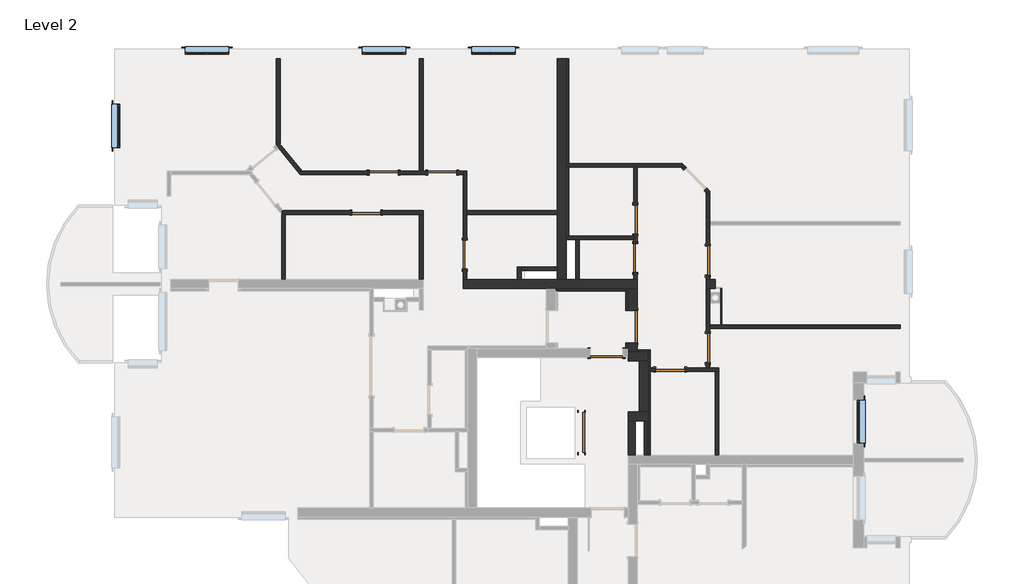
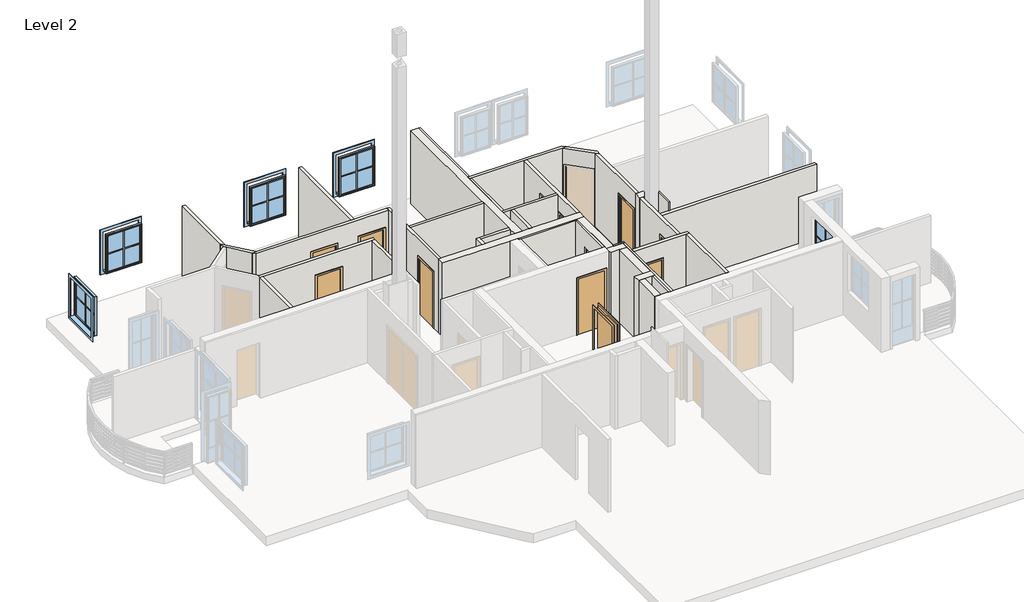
# One storey, part 3 of 4: 37 walls, 12 doors, 5 windows.
"""IFC4 building model written with IfcOpenShell, lengths in millimetres."""

from ifc_helpers import new_model, si_unit, frame, origin, place, context, project, spatial, polyline, outline, extrude, faceted_brep, transform, mapped, element, save
from components import standard_door_sd_1100x2000_1d62120a, standard_door_sd_800x2000_6a16926d, standard_door_sd_800x2000_80f4ff25, standard_door_sd_900x2000_a6683946, standard_door_sd_900x2000_4224ae2a, standard_window_with_mullions_80486b60

model = new_model("IFC4")

# Units and contexts
model_context = context("Model", 3, world=origin())
ifc_project = project(units=[si_unit("LENGTHUNIT", "METRE", prefix="MILLI")], contexts=[model_context])

# Site, building, storey
site = spatial("IfcSite", under=ifc_project)
building = spatial("IfcBuilding", under=site)
storey = spatial("IfcBuildingStorey", under=building, Name="Level 2", Elevation=5900.0)

# Doors
placement = place(None, origin())
standard_door_sd_1100x2000_shape = standard_door_sd_1100x2000_1d62120a(model_context)
element("IfcDoor", 1, ObjectType="Standard Door : SD 1100x2000", at=placement, inside=storey, context=model_context, shape_type="MappedRepresentation", body=[
    mapped(standard_door_sd_1100x2000_shape, transform((277.8037835, 250.1290541, 5900.0), x_axis=(0.0, -1.0, 0.0), y_axis=(1.0, 0.0, 0.0), z_axis=(0.0, 0.0, 1.0))),
])
standard_door_sd_800x2000_shape = standard_door_sd_800x2000_6a16926d(model_context)
element("IfcDoor", 2, ObjectType="Standard Door : SD 800x2000", at=placement, inside=storey, context=model_context, shape_type="MappedRepresentation", body=[
    mapped(standard_door_sd_800x2000_shape, transform((2717.8037831, 1986.2076978, 5900.0), x_axis=(1.0, 0.0, 0.0), y_axis=(0.0, 1.0, 0.0), z_axis=(0.0, 0.0, 1.0))),
])
element("IfcDoor", 3, ObjectType="Standard Door : SD 800x2000", at=placement, inside=storey, context=model_context, shape_type="MappedRepresentation", body=[
    mapped(standard_door_sd_800x2000_shape, transform((-5174.2767874, 7417.6290541, 5900.0), x_axis=(-1.0, 0.0, 0.0), y_axis=(0.0, -1.0, 0.0), z_axis=(0.0, 0.0, 1.0))),
])
element("IfcDoor", 4, ObjectType="Standard Door : SD 800x2000", at=placement, inside=storey, context=model_context, shape_type="MappedRepresentation", body=[
    mapped(standard_door_sd_800x2000_shape, transform((-2937.1962165, 5153.56811, 5900.0), x_axis=(0.0, -0.9999999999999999, 0.0), y_axis=(0.9999999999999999, 0.0, 0.0), z_axis=(0.0, 0.0, 1.0))),
])
standard_door_sd_800x2000_2_shape = standard_door_sd_800x2000_80f4ff25(model_context)
element("IfcDoor", 5, ObjectType="Standard Door : SD 800x2000", at=placement, inside=storey, context=model_context, shape_type="MappedRepresentation", body=[
    mapped(standard_door_sd_800x2000_2_shape, transform((-3559.5684451, 7417.6290541, 5900.0), x_axis=(1.0, 0.0, 0.0), y_axis=(0.0, 1.0, 0.0), z_axis=(0.0, 0.0, 1.0))),
])
element("IfcDoor", 6, ObjectType="Standard Door : SD 800x2000", at=placement, inside=storey, context=model_context, shape_type="MappedRepresentation", body=[
    mapped(standard_door_sd_800x2000_2_shape, transform((-5654.3517261, 6317.6290541, 5900.0), x_axis=(-1.0, 0.0, 0.0), y_axis=(0.0, -1.0, 0.0), z_axis=(0.0, 0.0, 1.0))),
])
element("IfcDoor", 7, ObjectType="Standard Door : SD 800x2000", at=placement, inside=storey, context=model_context, shape_type="MappedRepresentation", body=[
    mapped(standard_door_sd_800x2000_2_shape, transform((3762.8037835, 2576.2076972, 5900.0), x_axis=(0.0, -1.0, 0.0), y_axis=(1.0, 0.0, 0.0), z_axis=(0.0, 0.0, 1.0))),
])
element("IfcDoor", 8, ObjectType="Standard Door : SD 800x2000", at=placement, inside=storey, context=model_context, shape_type="MappedRepresentation", body=[
    mapped(standard_door_sd_800x2000_2_shape, transform((3762.8037835, 4988.8717038, 5900.0), x_axis=(0.0, -1.0, 0.0), y_axis=(1.0, 0.0, 0.0), z_axis=(0.0, 0.0, 1.0))),
])
element("IfcDoor", 9, ObjectType="Standard Door : SD 800x2000", at=placement, inside=storey, context=model_context, shape_type="MappedRepresentation", body=[
    mapped(standard_door_sd_800x2000_2_shape, transform((1762.8037835, 5063.1824611, 5900.0), x_axis=(0.0, 1.0, 0.0), y_axis=(-1.0, 0.0, 0.0), z_axis=(0.0, 0.0, 1.0))),
])
element("IfcDoor", 10, ObjectType="Standard Door : SD 800x2000", at=placement, inside=storey, context=model_context, shape_type="MappedRepresentation", body=[
    mapped(standard_door_sd_800x2000_2_shape, transform((1762.8037835, 6127.9240135, 5900.0), x_axis=(0.0, -1.0, 0.0), y_axis=(1.0, 0.0, 0.0), z_axis=(0.0, 0.0, 1.0))),
])
standard_door_sd_900x2000_shape = standard_door_sd_900x2000_a6683946(model_context)
element("IfcDoor", 11, ObjectType="Standard Door : SD 900x2000", at=placement, inside=storey, context=model_context, shape_type="MappedRepresentation", body=[
    mapped(standard_door_sd_900x2000_shape, transform((1687.8037835, 3171.1987133, 5900.0), x_axis=(0.0, 1.0, 0.0), y_axis=(-1.0, 0.0, 0.0), z_axis=(0.0, 0.0, 1.0))),
])
standard_door_sd_900x2000_2_shape = standard_door_sd_900x2000_4224ae2a(model_context)
element("IfcDoor", 12, ObjectType="Standard Door : SD 900x2000", at=placement, inside=storey, context=model_context, shape_type="MappedRepresentation", body=[
    mapped(standard_door_sd_900x2000_2_shape, transform((967.0786115, 2442.6290541, 5900.0), x_axis=(-1.0, 0.0, 0.0), y_axis=(0.0, -1.0, 0.0), z_axis=(0.0, 0.0, 1.0))),
])

# Walls
element("IfcWall", 13, ObjectType="Interior - 100mm", at=placement, inside=storey, context=model_context, shape_type="SweptSolid", body=[
    extrude(outline(polyline([(-7989.734861, 4467.6290541), (-7989.734861, 6267.6290541), (-7889.734861, 6267.6290541), (-7889.734861, 4467.6290541), (-7989.734861, 4467.6290541)])), frame((0.0, 0.0, 5900.0), z_axis=(0.0, 0.0, 1.0), x_axis=(1.0, 0.0, 0.0)), (0.0, 0.0, 1.0), 2630.0),
])
element("IfcWall", 14, ObjectType="Interior - 100mm", at=placement, inside=storey, context=model_context, shape_type="Brep", body=[
    faceted_brep([(-7989.734861, 6367.6290541, 5900.0), (-7942.2621811, 6367.6290541, 5900.0), (-6054.3517261, 6367.6290541, 5900.0), (-6054.3517261, 6267.6290541, 5900.0), (-7889.734861, 6267.6290541, 5900.0), (-7989.734861, 6267.6290541, 5900.0), (-5254.3517261, 6367.6290541, 5900.0), (-4087.1962165, 6367.6290541, 5900.0), (-4087.1962165, 6267.6290541, 5900.0), (-4187.1962165, 6267.6290541, 5900.0), (-5254.3517261, 6267.6290541, 5900.0), (-6054.3517261, 6267.6290541, 7900.0), (-5254.3517261, 6267.6290541, 7900.0), (-4087.1962165, 6267.6290541, 8530.0), (-4187.1962165, 6267.6290541, 8530.0), (-7889.734861, 6267.6290541, 8530.0), (-7989.734861, 6267.6290541, 8530.0), (-6054.3517261, 6367.6290541, 7900.0), (-7989.734861, 6367.6290541, 8530.0), (-7942.2621811, 6367.6290541, 8530.0), (-4087.1962165, 6367.6290541, 8530.0), (-5254.3517261, 6367.6290541, 7900.0)], [[[0, 1, 2, 3, 4, 5]], [[6, 7, 8, 9, 10]], [[5, 4, 3, 11, 12, 10, 9, 8, 13, 14, 15, 16]], [[17, 2, 1, 0, 18, 19, 20, 7, 6, 21]], [[13, 8, 7, 20]], [[5, 16, 18, 0]], [[16, 15, 14, 13, 20, 19, 18]], [[11, 3, 2, 17]], [[12, 11, 17, 21]], [[10, 12, 21, 6]]]),
])
element("IfcWall", 15, ObjectType="Interior - 100mm", at=placement, inside=storey, context=model_context, shape_type="SweptSolid", body=[
    extrude(outline(polyline([(-4187.1962165, 4467.6290541), (-4187.1962165, 6267.6290541), (-4087.1962165, 6267.6290541), (-4087.1962165, 4467.6290541), (-4187.1962165, 4467.6290541)])), frame((0.0, 0.0, 5900.0), z_axis=(0.0, 0.0, 1.0), x_axis=(1.0, 0.0, 0.0)), (0.0, 0.0, 1.0), 2630.0),
])
element("IfcWall", 16, ObjectType="Interior - 100mm", at=placement, inside=storey, context=model_context, shape_type="Brep", body=[
    faceted_brep([(-2987.1962165, 4467.6290541, 5900.0), (-2987.1962165, 4753.56811, 5900.0), (-2887.1962165, 4753.56811, 5900.0), (-2887.1962165, 4467.6290541, 5900.0), (-2987.1962165, 5553.56811, 5900.0), (-2987.1962165, 7367.6290541, 5900.0), (-2987.1962165, 7467.6290541, 5900.0), (-2887.1962165, 7467.6290541, 5900.0), (-2887.1962165, 6367.6290541, 5900.0), (-2887.1962165, 6267.6290541, 5900.0), (-2887.1962165, 5553.56811, 5900.0), (-2887.1962165, 4753.56811, 7900.0), (-2887.1962165, 5553.56811, 7900.0), (-2887.1962165, 7467.6290541, 8530.0), (-2887.1962165, 6367.6290541, 8530.0), (-2887.1962165, 6267.6290541, 8530.0), (-2887.1962165, 4467.6290541, 8530.0), (-2987.1962165, 4753.56811, 7900.0), (-2987.1962165, 4467.6290541, 8530.0), (-2987.1962165, 7367.6290541, 8530.0), (-2987.1962165, 7467.6290541, 8530.0), (-2987.1962165, 5553.56811, 7900.0)], [[[0, 1, 2, 3]], [[4, 5, 6, 7, 8, 9, 10]], [[3, 2, 11, 12, 10, 9, 8, 7, 13, 14, 15, 16]], [[17, 1, 0, 18, 19, 20, 6, 5, 4, 21]], [[3, 16, 18, 0]], [[13, 7, 6, 20]], [[16, 15, 14, 13, 20, 19, 18]], [[11, 2, 1, 17]], [[12, 11, 17, 21]], [[10, 12, 21, 4]]]),
])
element("IfcWall", 17, ObjectType="Interior - 100mm", at=placement, inside=storey, context=model_context, shape_type="Brep", body=[
    faceted_brep([(-2987.1962165, 7367.6290541, 5900.0), (-3159.5684451, 7367.6290541, 5900.0), (-3159.5684451, 7467.6290541, 5900.0), (-2987.1962165, 7467.6290541, 5900.0), (-7549.1227781, 7467.6290541, 5900.0), (-7420.0627022, 7467.6290541, 5900.0), (-5574.2767874, 7467.6290541, 5900.0), (-5574.2767874, 7367.6290541, 5900.0), (-7467.5353821, 7367.6290541, 5900.0), (-4774.2767874, 7467.6290541, 5900.0), (-4187.1962165, 7467.6290541, 5900.0), (-4087.1962165, 7467.6290541, 5900.0), (-3959.5684451, 7467.6290541, 5900.0), (-3959.5684451, 7367.6290541, 5900.0), (-4774.2767874, 7367.6290541, 5900.0), (-5574.2767874, 7467.6290541, 7900.0), (-7549.1227781, 7467.6290541, 8530.0), (-7420.0627022, 7467.6290541, 8530.0), (-4187.1962165, 7467.6290541, 8530.0), (-4087.1962165, 7467.6290541, 8530.0), (-2987.1962165, 7467.6290541, 8530.0), (-3159.5684451, 7467.6290541, 7900.0), (-3959.5684451, 7467.6290541, 7900.0), (-4774.2767874, 7467.6290541, 7900.0), (-5574.2767874, 7367.6290541, 7900.0), (-4774.2767874, 7367.6290541, 7900.0), (-3959.5684451, 7367.6290541, 7900.0), (-3159.5684451, 7367.6290541, 7900.0), (-2987.1962165, 7367.6290541, 8530.0), (-7467.5353821, 7367.6290541, 8530.0)], [[[0, 1, 2, 3]], [[4, 5, 6, 7, 8]], [[9, 10, 11, 12, 13, 14]], [[15, 6, 5, 4, 16, 17, 18, 19, 20, 3, 2, 21, 22, 12, 11, 10, 9, 23]], [[8, 7, 24, 25, 14, 13, 26, 27, 1, 0, 28, 29]], [[3, 20, 28, 0]], [[16, 4, 8, 29]], [[20, 19, 18, 17, 16, 29, 28]], [[21, 2, 1, 27]], [[22, 21, 27, 26]], [[12, 22, 26, 13]], [[24, 7, 6, 15]], [[25, 24, 15, 23]], [[14, 25, 23, 9]]]),
])
element("IfcWall", 18, ObjectType="Interior - 100mm", at=placement, inside=storey, context=model_context, shape_type="SweptSolid", body=[
    extrude(outline(polyline([(-387.1962165, 6267.6290541), (-2887.1962165, 6267.6290541), (-2887.1962165, 6367.6290541), (-387.1962165, 6367.6290541), (-387.1962165, 6267.6290541)])), frame((0.0, 0.0, 5900.0), z_axis=(0.0, 0.0, 1.0), x_axis=(1.0, 0.0, 0.0)), (0.0, 0.0, 1.0), 2630.0),
])
element("IfcWall", 19, ObjectType="Interior - 100mm", at=placement, inside=storey, context=model_context, shape_type="Brep", body=[
    faceted_brep([(-1387.1962165, 4467.6290541, 5900.0), (-1387.1962165, 4717.6290541, 5900.0), (-1387.1962165, 4817.6290541, 5900.0), (-1387.1962165, 4817.6290541, 8530.0), (-1387.1962165, 4717.6290541, 8530.0), (-1387.1962165, 4467.6290541, 8530.0), (-1487.1962165, 4467.6290541, 5900.0), (-1487.1962165, 4467.6290541, 8530.0), (-1487.1962165, 4817.6290541, 8530.0), (-1487.1962165, 4817.6290541, 5900.0)], [[[0, 1, 2, 3, 4, 5]], [[6, 7, 8, 9]], [[2, 1, 0, 6, 9]], [[3, 2, 9, 8]], [[0, 5, 7, 6]], [[5, 4, 3, 8, 7]]]),
])
element("IfcWall", 20, ObjectType="Interior - 100mm", at=placement, inside=storey, context=model_context, shape_type="Brep", body=[
    faceted_brep([(-1387.1962165, 4717.6290541, 5900.0), (-387.1962165, 4717.6290541, 5900.0), (-387.1962165, 4717.6290541, 8530.0), (-1287.1962165, 4717.6290541, 8530.0), (-1387.1962165, 4717.6290541, 8530.0), (-1387.1962165, 4817.6290541, 5900.0), (-1387.1962165, 4817.6290541, 8530.0), (-387.1962165, 4817.6290541, 8530.0), (-387.1962165, 4817.6290541, 5900.0)], [[[0, 1, 2, 3, 4]], [[5, 6, 7, 8]], [[1, 0, 5, 8]], [[2, 1, 8, 7]], [[0, 4, 6, 5]], [[4, 3, 2, 7, 6]]]),
])
element("IfcWall", 21, ObjectType="Interior - 100mm", at=placement, inside=storey, context=model_context, shape_type="Brep", body=[
    faceted_brep([(4062.8037835, 1936.2076978, 5900.0), (3962.8037835, 1936.2076978, 5900.0), (3117.8037831, 1936.2076978, 5900.0), (3117.8037831, 2036.2076978, 5900.0), (3712.8037835, 2036.2076978, 5900.0), (3812.8037835, 2036.2076978, 5900.0), (4062.8037835, 2036.2076978, 5900.0), (2317.8037831, 1936.2076978, 5900.0), (2177.8037835, 1936.2076978, 5900.0), (2177.8037835, 2036.2076978, 5900.0), (2317.8037831, 2036.2076978, 5900.0), (3117.8037831, 1936.2076978, 7900.0), (4062.8037835, 1936.2076978, 8530.0), (3962.8037835, 1936.2076978, 8530.0), (2177.8037835, 1936.2076978, 8530.0), (2317.8037831, 1936.2076978, 7900.0), (3117.8037831, 2036.2076978, 7900.0), (2317.8037831, 2036.2076978, 7900.0), (2177.8037835, 2036.2076978, 8530.0), (3712.8037835, 2036.2076978, 8530.0), (3812.8037835, 2036.2076978, 8530.0), (4062.8037835, 2036.2076978, 8530.0)], [[[0, 1, 2, 3, 4, 5, 6]], [[7, 8, 9, 10]], [[11, 2, 1, 0, 12, 13, 14, 8, 7, 15]], [[6, 5, 4, 3, 16, 17, 10, 9, 18, 19, 20, 21]], [[8, 14, 18, 9]], [[12, 0, 6, 21]], [[14, 13, 12, 21, 20, 19, 18]], [[16, 3, 2, 11]], [[17, 16, 11, 15]], [[10, 17, 15, 7]]]),
])
element("IfcWall", 22, ObjectType="Interior - 100mm", at=placement, inside=storey, context=model_context, shape_type="SweptSolid", body=[
    extrude(outline(polyline([(3962.8037835, -382.3709459), (3962.8037835, 1936.2076978), (4062.8037835, 1936.2076978), (4062.8037835, -382.3709459), (3962.8037835, -382.3709459)])), frame((0.0, 0.0, 5900.0), z_axis=(0.0, 0.0, 1.0), x_axis=(1.0, 0.0, 0.0)), (0.0, 0.0, 1.0), 2630.0),
])
element("IfcWall", 23, ObjectType="Interior - 100mm", at=placement, inside=storey, context=model_context, shape_type="SweptSolid", body=[
    extrude(outline(polyline([(2012.8037835, -382.3709459), (2012.8037835, 567.6290541), (2112.8037835, 567.6290541), (2112.8037835, -382.3709459), (2012.8037835, -382.3709459)])), frame((0.0, 0.0, 5900.0), z_axis=(0.0, 0.0, 1.0), x_axis=(1.0, 0.0, 0.0)), (0.0, 0.0, 1.0), 2630.0),
])
element("IfcWall", 24, ObjectType="Interior - 100mm", at=placement, inside=storey, context=model_context, shape_type="Brep", body=[
    faceted_brep([(3154.2251397, 7567.6290541, 5900.0), (3012.8037835, 7567.6290541, 5900.0), (1812.8037835, 7567.6290541, 5900.0), (1712.8037835, 7567.6290541, 5900.0), (-72.1962165, 7567.6290541, 5900.0), (-137.1962165, 7567.6290541, 5900.0), (-137.1962165, 7667.6290541, 5900.0), (3054.2251397, 7667.6290541, 5900.0), (3154.2251397, 7567.6290541, 8530.0), (3012.8037835, 7567.6290541, 8530.0), (1812.8037835, 7567.6290541, 8530.0), (1712.8037835, 7567.6290541, 8530.0), (-72.1962165, 7567.6290541, 8530.0), (-137.1962165, 7567.6290541, 8530.0), (-137.1962165, 7667.6290541, 8530.0), (3054.2251397, 7667.6290541, 8530.0)], [[[0, 1, 2, 3, 4, 5, 6, 7]], [[5, 4, 3, 2, 1, 0, 8, 9, 10, 11, 12, 13]], [[6, 14, 15, 7]], [[5, 13, 14, 6]], [[8, 0, 7, 15]], [[13, 12, 11, 10, 9, 8, 15, 14]]]),
])
element("IfcWall", 25, ObjectType="Interior - 100mm", at=placement, inside=storey, context=model_context, shape_type="Brep", body=[
    faceted_brep([(3012.8037835, 7567.6290541, 5900.0), (3154.2251397, 7567.6290541, 5900.0), (3163.3585219, 7558.4956719, 5900.0), (3092.6478438, 7487.7849937, 5900.0), (3812.8037835, 6909.0504103, 5900.0), (3812.8037835, 6767.6290541, 5900.0), (3712.8037835, 6867.6290541, 5900.0), (3658.3332688, 6922.0995688, 5900.0), (3729.0439469, 6992.8102469, 5900.0), (3012.8037835, 7567.6290541, 8530.0), (3092.6478438, 7487.7849937, 7900.0), (3658.3332688, 6922.0995688, 7900.0), (3812.8037835, 6767.6290541, 8530.0), (3712.8037835, 6867.6290541, 8530.0), (3154.2251397, 7567.6290541, 8530.0), (3812.8037835, 6909.0504103, 8530.0), (3729.0439469, 6992.8102469, 7900.0), (3163.3585219, 7558.4956719, 7900.0)], [[[0, 1, 2, 3]], [[4, 5, 6, 7, 8]], [[9, 0, 3, 10, 11, 7, 6, 5, 12, 13]], [[1, 14, 15, 4, 8, 16, 17, 2]], [[0, 9, 14, 1]], [[12, 5, 4, 15]], [[9, 13, 12, 15, 14]], [[11, 16, 8, 7]], [[16, 11, 10, 17]], [[17, 10, 3, 2]]]),
])
element("IfcWall", 26, ObjectType="Interior - 100mm", at=placement, inside=storey, context=model_context, shape_type="Brep", body=[
    faceted_brep([(3712.8037835, 4467.6290541, 5900.0), (3712.8037835, 4588.8717038, 5900.0), (3812.8037835, 4588.8717038, 5900.0), (3812.8037835, 4467.6290541, 5900.0), (3712.8037835, 5388.8717038, 5900.0), (3712.8037835, 6867.6290541, 5900.0), (3812.8037835, 6767.6290541, 5900.0), (3812.8037835, 6067.6290541, 5900.0), (3812.8037835, 5967.6290541, 5900.0), (3812.8037835, 5388.8717038, 5900.0), (3712.8037835, 4588.8717038, 7900.0), (3712.8037835, 4467.6290541, 8530.0), (3712.8037835, 6867.6290541, 8530.0), (3712.8037835, 5388.8717038, 7900.0), (3812.8037835, 4588.8717038, 7900.0), (3812.8037835, 5388.8717038, 7900.0), (3812.8037835, 6767.6290541, 8530.0), (3812.8037835, 6067.6290541, 8530.0), (3812.8037835, 5967.6290541, 8530.0), (3812.8037835, 4467.6290541, 8530.0)], [[[0, 1, 2, 3]], [[4, 5, 6, 7, 8, 9]], [[10, 1, 0, 11, 12, 5, 4, 13]], [[3, 2, 14, 15, 9, 8, 7, 6, 16, 17, 18, 19]], [[5, 12, 16, 6]], [[11, 0, 3, 19]], [[12, 11, 19, 18, 17, 16]], [[14, 2, 1, 10]], [[15, 14, 10, 13]], [[9, 15, 13, 4]]]),
])
element("IfcWall", 27, ObjectType="Interior - 100mm", at=placement, inside=storey, context=model_context, shape_type="Brep", body=[
    faceted_brep([(1712.8037835, 5463.1824611, 5900.0), (1712.8037835, 5567.6290541, 5900.0), (1712.8037835, 5667.6290541, 5900.0), (1712.8037835, 5727.9240135, 5900.0), (1812.8037835, 5727.9240135, 5900.0), (1812.8037835, 5463.1824611, 5900.0), (1812.8037835, 4663.1824611, 5900.0), (1812.8037835, 4467.6290541, 5900.0), (1712.8037835, 4467.6290541, 5900.0), (1712.8037835, 4663.1824611, 5900.0), (1712.8037835, 6527.9240135, 5900.0), (1712.8037835, 7567.6290541, 5900.0), (1812.8037835, 7567.6290541, 5900.0), (1812.8037835, 6527.9240135, 5900.0), (1712.8037835, 5727.9240135, 7900.0), (1712.8037835, 5463.1824611, 7900.0), (1712.8037835, 4663.1824611, 7900.0), (1712.8037835, 4467.6290541, 8530.0), (1712.8037835, 5567.6290541, 8530.0), (1712.8037835, 5667.6290541, 8530.0), (1712.8037835, 7567.6290541, 8530.0), (1712.8037835, 6527.9240135, 7900.0), (1812.8037835, 5727.9240135, 7900.0), (1812.8037835, 6527.9240135, 7900.0), (1812.8037835, 7567.6290541, 8530.0), (1812.8037835, 4467.6290541, 8530.0), (1812.8037835, 4663.1824611, 7900.0), (1812.8037835, 5463.1824611, 7900.0)], [[[0, 1, 2, 3, 4, 5]], [[6, 7, 8, 9]], [[10, 11, 12, 13]], [[14, 3, 2, 1, 0, 15, 16, 9, 8, 17, 18, 19, 20, 11, 10, 21]], [[5, 4, 22, 23, 13, 12, 24, 25, 7, 6, 26, 27]], [[11, 20, 24, 12]], [[17, 8, 7, 25]], [[20, 19, 18, 17, 25, 24]], [[15, 0, 5, 27]], [[16, 15, 27, 26]], [[9, 16, 26, 6]], [[22, 4, 3, 14]], [[23, 22, 14, 21]], [[13, 23, 21, 10]]]),
])
element("IfcWall", 28, ObjectType="Interior - 100mm", at=placement, inside=storey, context=model_context, shape_type="Brep", body=[
    faceted_brep([(1712.8037835, 5667.6290541, 5900.0), (-137.1962165, 5667.6290541, 5900.0), (-137.1962165, 5667.6290541, 8530.0), (1712.8037835, 5667.6290541, 8530.0), (1712.8037835, 5567.6290541, 5900.0), (1712.8037835, 5567.6290541, 8530.0), (212.8037835, 5567.6290541, 8530.0), (112.8037835, 5567.6290541, 8530.0), (-137.1962165, 5567.6290541, 8530.0), (-137.1962165, 5567.6290541, 5900.0), (112.8037835, 5567.6290541, 5900.0), (212.8037835, 5567.6290541, 5900.0)], [[[0, 1, 2, 3]], [[4, 5, 6, 7, 8, 9, 10, 11]], [[1, 0, 4, 11, 10, 9]], [[2, 1, 9, 8]], [[0, 3, 5, 4]], [[3, 2, 8, 7, 6, 5]]]),
])
element("IfcWall", 29, ObjectType="Interior - 100mm", at=placement, inside=storey, context=model_context, shape_type="SweptSolid", body=[
    extrude(outline(polyline([(112.8037835, 4467.6290541), (112.8037835, 5567.6290541), (212.8037835, 5567.6290541), (212.8037835, 4467.6290541), (112.8037835, 4467.6290541)])), frame((0.0, 0.0, 5900.0), z_axis=(0.0, 0.0, 1.0), x_axis=(1.0, 0.0, 0.0)), (0.0, 0.0, 1.0), 2630.0),
])
element("IfcWall", 30, ObjectType="Interior - 100mm", at=placement, inside=storey, context=model_context, shape_type="Brep", body=[
    faceted_brep([(9062.8037835, 3216.2076978, 5900.0), (4142.8037835, 3216.2076978, 5900.0), (4112.8037835, 3216.2076978, 5900.0), (3812.8037835, 3216.2076978, 5900.0), (3812.8037835, 3216.2076978, 8530.0), (9062.8037835, 3216.2076978, 8530.0), (9062.8037835, 3116.2076978, 5900.0), (9062.8037835, 3116.2076978, 8530.0), (3812.8037835, 3116.2076978, 8530.0), (3812.8037835, 3116.2076978, 5900.0)], [[[0, 1, 2, 3, 4, 5]], [[6, 7, 8, 9]], [[3, 2, 1, 0, 6, 9]], [[4, 3, 9, 8]], [[0, 5, 7, 6]], [[5, 4, 8, 7]]]),
])
element("IfcWall", 31, ObjectType="Interior - 100mm", at=placement, inside=storey, context=model_context, shape_type="Brep", body=[
    faceted_brep([(3712.8037835, 2036.2076978, 5900.0), (3712.8037835, 2176.2076972, 5900.0), (3812.8037835, 2176.2076972, 5900.0), (3812.8037835, 2036.2076978, 5900.0), (3712.8037835, 2976.2076972, 5900.0), (3712.8037835, 4217.6290541, 5900.0), (3812.8037835, 4217.6290541, 5900.0), (3812.8037835, 3216.2076978, 5900.0), (3812.8037835, 3116.2076978, 5900.0), (3812.8037835, 2976.2076972, 5900.0), (3712.8037835, 2176.2076972, 7900.0), (3712.8037835, 2036.2076978, 8530.0), (3712.8037835, 4217.6290541, 8530.0), (3712.8037835, 2976.2076972, 7900.0), (3812.8037835, 2176.2076972, 7900.0), (3812.8037835, 2976.2076972, 7900.0), (3812.8037835, 4217.6290541, 8530.0), (3812.8037835, 3216.2076978, 8530.0), (3812.8037835, 3116.2076978, 8530.0), (3812.8037835, 2036.2076978, 8530.0)], [[[0, 1, 2, 3]], [[4, 5, 6, 7, 8, 9]], [[10, 1, 0, 11, 12, 5, 4, 13]], [[3, 2, 14, 15, 9, 8, 7, 6, 16, 17, 18, 19]], [[11, 0, 3, 19]], [[5, 12, 16, 6]], [[12, 11, 19, 18, 17, 16]], [[14, 2, 1, 10]], [[15, 14, 10, 13]], [[9, 15, 13, 4]]]),
])
element("IfcWall", 32, ObjectType="Interior - 100mm", at=placement, inside=storey, context=model_context, shape_type="Brep", body=[
    faceted_brep([(-7420.0627022, 7467.6290541, 5900.0), (-8028.1071844, 8212.8967207, 5900.0), (-8128.1071844, 8335.4646723, 5900.0), (-8128.1071844, 8335.4646723, 8530.0), (-8028.1071844, 8212.8967207, 8530.0), (-7420.0627022, 7467.6290541, 8530.0), (-7549.1227781, 7467.6290541, 5900.0), (-7549.1227781, 7467.6290541, 8530.0), (-8064.8905812, 8099.7950854, 8530.0), (-8128.1071844, 8177.278381, 8530.0), (-8128.1071844, 8177.278381, 5900.0), (-8064.8905812, 8099.7950854, 5900.0)], [[[0, 1, 2, 3, 4, 5]], [[6, 7, 8, 9, 10, 11]], [[2, 1, 0, 6, 11, 10]], [[3, 2, 10, 9]], [[0, 5, 7, 6]], [[5, 4, 3, 9, 8, 7]]]),
])
element("IfcWall", 33, ObjectType="Interior - 100mm", at=placement, inside=storey, context=model_context, shape_type="SweptSolid", body=[
    extrude(outline(polyline([(-8028.1071844, 10567.6290541), (-8028.1071844, 8212.8967207), (-8128.1071844, 8335.4646723), (-8128.1071844, 10567.6290541), (-8028.1071844, 10567.6290541)])), frame((0.0, 0.0, 5900.0), z_axis=(0.0, 0.0, 1.0), x_axis=(1.0, 0.0, 0.0)), (0.0, 0.0, 1.0), 2630.0),
])
element("IfcWall", 34, ObjectType="Interior - 100mm", at=placement, inside=storey, context=model_context, shape_type="SweptSolid", body=[
    extrude(outline(polyline([(-4087.1962165, 10567.6290541), (-4087.1962165, 7467.6290541), (-4187.1962165, 7467.6290541), (-4187.1962165, 10567.6290541), (-4087.1962165, 10567.6290541)])), frame((0.0, 0.0, 5900.0), z_axis=(0.0, 0.0, 1.0), x_axis=(1.0, 0.0, 0.0)), (0.0, 0.0, 1.0), 2630.0),
])
element("IfcWall", 35, ObjectType="Interior - 200mm", at=placement, inside=storey, context=model_context, shape_type="SweptSolid", body=[
    extrude(outline(polyline([(1562.8087381, -382.3709459), (1562.8087381, 567.6290541), (1762.8087381, 567.6290541), (1762.8087381, -382.3709459), (1562.8087381, -382.3709459)])), frame((0.0, 0.0, 5900.0), z_axis=(0.0, 0.0, 1.0), x_axis=(1.0, 0.0, 0.0)), (0.0, 0.0, 1.0), 2630.0),
])
element("IfcWall", 36, ObjectType="Interior - 250mm", at=placement, inside=storey, context=model_context, shape_type="Brep", body=[
    faceted_brep([(3712.8037835, 4217.6290541, 5900.0), (3812.8037835, 4217.6290541, 5900.0), (3962.8037835, 4217.6290541, 5900.0), (3962.8037835, 4217.6290541, 8530.0), (3812.8037835, 4217.6290541, 8530.0), (3712.8037835, 4217.6290541, 8530.0), (3712.8037835, 4467.6290541, 5900.0), (3712.8037835, 4467.6290541, 8530.0), (3812.8037835, 4467.6290541, 8530.0), (3962.8037835, 4467.6290541, 8530.0), (3962.8037835, 4467.6290541, 5900.0), (3812.8037835, 4467.6290541, 5900.0), (3962.8037835, 4247.6290541, 5900.0)], [[[0, 1, 2, 3, 4, 5]], [[6, 7, 8, 9, 10, 11]], [[2, 1, 0, 6, 11, 10, 12]], [[3, 2, 12, 10, 9]], [[0, 5, 7, 6]], [[5, 4, 3, 9, 8, 7]]]),
])
element("IfcWall", 37, ObjectType="Interior - 250mm", at=placement, inside=storey, context=model_context, shape_type="SweptSolid", body=[
    extrude(outline(polyline([(2112.8037835, 2217.6290541), (2112.8037835, 817.6290541), (1862.8037835, 817.6290541), (1862.8037835, 2217.6290541), (2112.8037835, 2217.6290541)])), frame((0.0, 0.0, 5900.0), z_axis=(0.0, 0.0, 1.0), x_axis=(1.0, 0.0, 0.0)), (0.0, 0.0, 1.0), 2630.0),
])
element("IfcWall", 38, ObjectType="Interior - 250mm", at=placement, inside=storey, context=model_context, shape_type="Brep", body=[
    faceted_brep([(2112.8037835, 2467.6290541, 5900.0), (1812.8037835, 2467.6290541, 5900.0), (1562.8037835, 2467.6290541, 5900.0), (1562.8037835, 2467.6290541, 8530.0), (1812.8037835, 2467.6290541, 8530.0), (2112.8037835, 2467.6290541, 8530.0), (2112.8037835, 2217.6290541, 5900.0), (2112.8037835, 2217.6290541, 8530.0), (1862.8037835, 2217.6290541, 8530.0), (1562.8037835, 2217.6290541, 8530.0), (1562.8037835, 2217.6290541, 5900.0), (1862.8037835, 2217.6290541, 5900.0), (1562.8037835, 2317.6290541, 5900.0), (1562.8037835, 2317.6290541, 8530.0)], [[[0, 1, 2, 3, 4, 5]], [[6, 7, 8, 9, 10, 11]], [[2, 1, 0, 6, 11, 10, 12]], [[3, 2, 12, 10, 9, 13]], [[0, 5, 7, 6]], [[5, 4, 3, 13, 9, 8, 7]]]),
])
element("IfcWall", 39, ObjectType="Interior - 250mm", at=placement, inside=storey, context=model_context, shape_type="Brep", body=[
    faceted_brep([(1812.8037835, 4217.6290541, 5900.0), (1812.8037835, 3621.1987133, 5900.0), (1562.8037835, 3621.1987133, 5900.0), (1562.8037835, 4152.6290541, 5900.0), (1562.8037835, 4217.6290541, 5900.0), (1812.8037835, 2721.1987133, 5900.0), (1812.8037835, 2522.6290541, 5900.0), (1812.8037835, 2467.6290541, 5900.0), (1562.8037835, 2467.6290541, 5900.0), (1562.8037835, 2567.6290541, 5900.0), (1562.8037835, 2721.1987133, 5900.0), (1812.8037835, 3621.1987133, 7900.0), (1812.8037835, 4217.6290541, 8530.0), (1812.8037835, 2522.6290541, 8530.0), (1812.8037835, 2467.6290541, 8530.0), (1812.8037835, 2721.1987133, 7900.0), (1562.8037835, 3621.1987133, 7900.0), (1562.8037835, 2721.1987133, 7900.0), (1562.8037835, 2467.6290541, 8530.0), (1562.8037835, 2567.6290541, 8530.0), (1562.8037835, 4152.6290541, 8530.0), (1562.8037835, 4217.6290541, 8530.0)], [[[0, 1, 2, 3, 4]], [[5, 6, 7, 8, 9, 10]], [[11, 1, 0, 12, 13, 14, 7, 6, 5, 15]], [[4, 3, 2, 16, 17, 10, 9, 8, 18, 19, 20, 21]], [[7, 14, 18, 8]], [[12, 0, 4, 21]], [[14, 13, 12, 21, 20, 19, 18]], [[16, 2, 1, 11]], [[17, 16, 11, 15]], [[10, 17, 15, 5]]]),
])
element("IfcWall", 40, ObjectType="Interior - 250mm", at=placement, inside=storey, context=model_context, shape_type="Brep", body=[
    faceted_brep([(-387.1962165, 10567.6290541, 5900.0), (-387.1962165, 6367.6290541, 5900.0), (-387.1962165, 6267.6290541, 5900.0), (-387.1962165, 4817.6290541, 5900.0), (-387.1962165, 4717.6290541, 5900.0), (-387.1962165, 4467.6290541, 5900.0), (-387.1962165, 4467.6290541, 8530.0), (-387.1962165, 4717.6290541, 8530.0), (-387.1962165, 4817.6290541, 8530.0), (-387.1962165, 6267.6290541, 8530.0), (-387.1962165, 6367.6290541, 8530.0), (-387.1962165, 10567.6290541, 8530.0), (-137.1962165, 10567.6290541, 5900.0), (-137.1962165, 10567.6290541, 8530.0), (-137.1962165, 7667.6290541, 8530.0), (-137.1962165, 7567.6290541, 8530.0), (-137.1962165, 5667.6290541, 8530.0), (-137.1962165, 5567.6290541, 8530.0), (-137.1962165, 4467.6290541, 8530.0), (-137.1962165, 4467.6290541, 5900.0), (-137.1962165, 5567.6290541, 5900.0), (-137.1962165, 5667.6290541, 5900.0), (-137.1962165, 7567.6290541, 5900.0), (-137.1962165, 7667.6290541, 5900.0)], [[[0, 1, 2, 3, 4, 5, 6, 7, 8, 9, 10, 11]], [[12, 13, 14, 15, 16, 17, 18, 19, 20, 21, 22, 23]], [[5, 4, 3, 2, 1, 0, 12, 23, 22, 21, 20, 19]], [[6, 5, 19, 18]], [[0, 11, 13, 12]], [[11, 10, 9, 8, 7, 6, 18, 17, 16, 15, 14, 13]]]),
])
element("IfcWall", 41, ObjectType="Interior - 250mm", at=placement, inside=storey, context=model_context, shape_type="Brep", body=[
    faceted_brep([(2112.8037835, 817.6290541, 5900.0), (1862.8037835, 817.6290541, 5900.0), (1562.8087381, 817.6290541, 5900.0), (1562.8087381, 817.6290541, 8530.0), (1862.8037835, 817.6290541, 8530.0), (2112.8037835, 817.6290541, 8530.0), (2112.8037835, 567.6290541, 5900.0), (2112.8037835, 567.6290541, 8530.0), (2012.8037835, 567.6290541, 8530.0), (1762.8087381, 567.6290541, 8530.0), (1562.8087381, 567.6290541, 8530.0), (1562.8087381, 567.6290541, 5900.0), (1762.8087381, 567.6290541, 5900.0), (2012.8037835, 567.6290541, 5900.0)], [[[0, 1, 2, 3, 4, 5]], [[6, 7, 8, 9, 10, 11, 12, 13]], [[2, 1, 0, 6, 13, 12, 11]], [[0, 5, 7, 6]], [[3, 2, 11, 10]], [[5, 4, 3, 10, 9, 8, 7]]]),
])
element("IfcWall", 42, ObjectType="Interior - 250mm", at=placement, inside=storey, context=model_context, shape_type="Brep", body=[
    faceted_brep([(-2987.1962165, 4217.6290541, 5900.0), (-687.1962165, 4217.6290541, 5900.0), (-437.1962165, 4217.6290541, 5900.0), (1562.8037835, 4217.6290541, 5900.0), (1812.8037835, 4217.6290541, 5900.0), (1812.8037835, 4217.6290541, 8530.0), (1562.8037835, 4217.6290541, 8530.0), (-437.1962165, 4217.6290541, 8530.0), (-687.1962165, 4217.6290541, 8530.0), (-2987.1962165, 4217.6290541, 8530.0), (-2987.1962165, 4467.6290541, 5900.0), (-2987.1962165, 4467.6290541, 8530.0), (-2887.1962165, 4467.6290541, 8530.0), (-1487.1962165, 4467.6290541, 8530.0), (-1387.1962165, 4467.6290541, 8530.0), (-1287.1962165, 4467.6290541, 8530.0), (-387.1962165, 4467.6290541, 8530.0), (-137.1962165, 4467.6290541, 8530.0), (112.8037835, 4467.6290541, 8530.0), (212.8037835, 4467.6290541, 8530.0), (1712.8037835, 4467.6290541, 8530.0), (1812.8037835, 4467.6290541, 8530.0), (1812.8037835, 4467.6290541, 5900.0), (1712.8037835, 4467.6290541, 5900.0), (212.8037835, 4467.6290541, 5900.0), (112.8037835, 4467.6290541, 5900.0), (-137.1962165, 4467.6290541, 5900.0), (-387.1962165, 4467.6290541, 5900.0), (-1387.1962165, 4467.6290541, 5900.0), (-1487.1962165, 4467.6290541, 5900.0), (-2887.1962165, 4467.6290541, 5900.0)], [[[0, 1, 2, 3, 4, 5, 6, 7, 8, 9]], [[10, 11, 12, 13, 14, 15, 16, 17, 18, 19, 20, 21, 22, 23, 24, 25, 26, 27, 28, 29, 30]], [[4, 3, 2, 1, 0, 10, 30, 29, 28, 27, 26, 25, 24, 23, 22]], [[0, 9, 11, 10]], [[5, 4, 22, 21]], [[9, 8, 7, 6, 5, 21, 20, 19, 18, 17, 16, 15, 14, 13, 12, 11]]]),
])
element("IfcWall", 43, ObjectType="Interior - 300mm", at=placement, inside=storey, context=model_context, shape_type="SweptSolid", body=[
    extrude(outline(polyline([(4112.8037835, 3216.2076978), (4112.8037835, 4217.6290541), (4142.8037835, 4217.6290541), (4142.8037835, 3216.2076978), (4112.8037835, 3216.2076978)])), frame((0.0, 0.0, 5900.0), z_axis=(0.0, 0.0, 1.0), x_axis=(1.0, 0.0, 0.0)), (0.0, 0.0, 1.0), 2950.0),
])
element("IfcWall", 44, ObjectType="Interior - 65mm", at=placement, inside=storey, context=model_context, shape_type="Brep", body=[
    faceted_brep([(1562.8037835, 4152.6290541, 5900.0), (1497.8037835, 4152.6290541, 5900.0), (-372.1962165, 4152.6290541, 5900.0), (-437.1962165, 4152.6290541, 5900.0), (-437.1962165, 4217.6290541, 5900.0), (1562.8037835, 4217.6290541, 5900.0), (1562.8037835, 4152.6290541, 8530.0), (1497.8037835, 4152.6290541, 8530.0), (-372.1962165, 4152.6290541, 8530.0), (-437.1962165, 4152.6290541, 8530.0), (-437.1962165, 4217.6290541, 8530.0), (1562.8037835, 4217.6290541, 8530.0)], [[[0, 1, 2, 3, 4, 5]], [[3, 2, 1, 0, 6, 7, 8, 9]], [[4, 10, 11, 5]], [[6, 0, 5, 11]], [[3, 9, 10, 4]], [[9, 8, 7, 6, 11, 10]]]),
])
element("IfcWall", 45, ObjectType="Interior - 65mm", at=placement, inside=storey, context=model_context, shape_type="SweptSolid", body=[
    extrude(outline(polyline([(4152.6290541, 5900.0), (3621.1987133, 5900.0), (3621.1987133, 7900.0), (2721.1987133, 7900.0), (2721.1987133, 5900.0), (2567.6290541, 5900.0), (2567.6290541, 8530.0), (4152.6290541, 8530.0), (4152.6290541, 5900.0)])), frame((1497.8037835, 0.0, 0.0), z_axis=(1.0, 0.0, 0.0), x_axis=(0.0, 1.0, 0.0)), (0.0, 0.0, 1.0), 65.0),
])
element("IfcWall", 46, ObjectType="Interior - 65mm", at=placement, inside=storey, context=model_context, shape_type="Brep", body=[
    faceted_brep([(1812.8037835, 2457.6290541, 5900.0), (2112.8037835, 2457.6290541, 5900.0), (2177.8037835, 2457.6290541, 5900.0), (2177.8037835, 2457.6290541, 8530.0), (2112.8037835, 2457.6290541, 8530.0), (1812.8037835, 2457.6290541, 8530.0), (1812.8037835, 2522.6290541, 5900.0), (1812.8037835, 2522.6290541, 8530.0), (2177.8037835, 2522.6290541, 8530.0), (2177.8037835, 2522.6290541, 5900.0), (1812.8037835, 2467.6290541, 5900.0), (1812.8037835, 2467.6290541, 8530.0)], [[[0, 1, 2, 3, 4, 5]], [[6, 7, 8, 9]], [[2, 1, 0, 10, 6, 9]], [[3, 2, 9, 8]], [[0, 5, 11, 7, 6, 10]], [[5, 4, 3, 8, 7, 11]]]),
])
element("IfcWall", 47, ObjectType="Interior - 65mm", at=placement, inside=storey, context=model_context, shape_type="Brep", body=[
    faceted_brep([(2112.8037835, 2457.6290541, 5900.0), (2112.8037835, -382.3709459, 5900.0), (2112.8037835, -382.3709459, 8530.0), (2112.8037835, 2457.6290541, 8530.0), (2177.8037835, 2457.6290541, 5900.0), (2177.8037835, 2457.6290541, 8530.0), (2177.8037835, 2036.2076978, 8530.0), (2177.8037835, 1936.2076978, 8530.0), (2177.8037835, -382.3709459, 8530.0), (2177.8037835, -382.3709459, 5900.0), (2177.8037835, 1936.2076978, 5900.0), (2177.8037835, 2036.2076978, 5900.0)], [[[0, 1, 2, 3]], [[4, 5, 6, 7, 8, 9, 10, 11]], [[1, 0, 4, 11, 10, 9]], [[0, 3, 5, 4]], [[2, 1, 9, 8]], [[3, 2, 8, 7, 6, 5]]]),
])
element("IfcWall", 48, ObjectType="Interior - 65mm", at=placement, inside=storey, context=model_context, shape_type="SweptSolid", body=[
    extrude(outline(polyline([(-137.1962165, 7674.6749556), (-137.1962165, 10567.6290541), (-72.1962165, 10567.6290541), (-72.1962165, 7674.6749556), (-137.1962165, 7674.6749556)])), frame((0.0, 0.0, 5900.0), z_axis=(0.0, 0.0, 1.0), x_axis=(1.0, 0.0, 0.0)), (0.0, 0.0, 1.0), 2630.0),
])
element("IfcWall", 49, ObjectType="Interior - 65mm", at=placement, inside=storey, context=model_context, shape_type="SweptSolid", body=[
    extrude(outline(polyline([(-137.1962165, 5669.6052715), (-137.1962165, 7567.6290541), (-72.1962165, 7567.6290541), (-72.1962165, 5669.6052715), (-137.1962165, 5669.6052715)])), frame((0.0, 0.0, 5900.0), z_axis=(0.0, 0.0, 1.0), x_axis=(1.0, 0.0, 0.0)), (0.0, 0.0, 1.0), 2630.0),
])

# Windows
standard_window_with_mullions_shape = standard_window_with_mullions_80486b60(model_context)
element("IfcWindow", 50, ObjectType="Standard Window with mullions : 1200/1400", at=placement, inside=storey, context=model_context, shape_type="MappedRepresentation", body=[
    mapped(standard_window_with_mullions_shape, transform((7912.8037835, 555.9947187, 5900.0), x_axis=(0.0, -1.0, 0.0), y_axis=(1.0, 0.0, 0.0), z_axis=(0.0, 0.0, 1.0))),
])
element("IfcWindow", 51, ObjectType="Standard Window with mullions : 1200/1400", at=placement, inside=storey, context=model_context, shape_type="MappedRepresentation", body=[
    mapped(standard_window_with_mullions_shape, transform((-12487.1962165, 8705.3927399, 5900.0), x_axis=(0.0, 1.0, 0.0), y_axis=(-1.0, 0.0, 0.0), z_axis=(0.0, 0.0, 1.0))),
])
element("IfcWindow", 52, ObjectType="Standard Window with mullions : 1200/1400", at=placement, inside=storey, context=model_context, shape_type="MappedRepresentation", body=[
    mapped(standard_window_with_mullions_shape, transform((-10042.4747669, 10717.6290541, 5900.0), x_axis=(1.0, 0.0, 0.0), y_axis=(0.0, 1.0, 0.0), z_axis=(0.0, 0.0, 1.0))),
])
element("IfcWindow", 53, ObjectType="Standard Window with mullions : 1200/1400", at=placement, inside=storey, context=model_context, shape_type="MappedRepresentation", body=[
    mapped(standard_window_with_mullions_shape, transform((-5160.5209693, 10717.6290541, 5900.0), x_axis=(1.0, 0.0, 0.0), y_axis=(0.0, 1.0, 0.0), z_axis=(0.0, 0.0, 1.0))),
])
element("IfcWindow", 54, ObjectType="Standard Window with mullions : 1200/1400", at=placement, inside=storey, context=model_context, shape_type="MappedRepresentation", body=[
    mapped(standard_window_with_mullions_shape, transform((-2148.3679777, 10717.6290541, 5900.0), x_axis=(1.0, 0.0, 0.0), y_axis=(0.0, 1.0, 0.0), z_axis=(0.0, 0.0, 1.0))),
])

save(model, "model.ifc")
